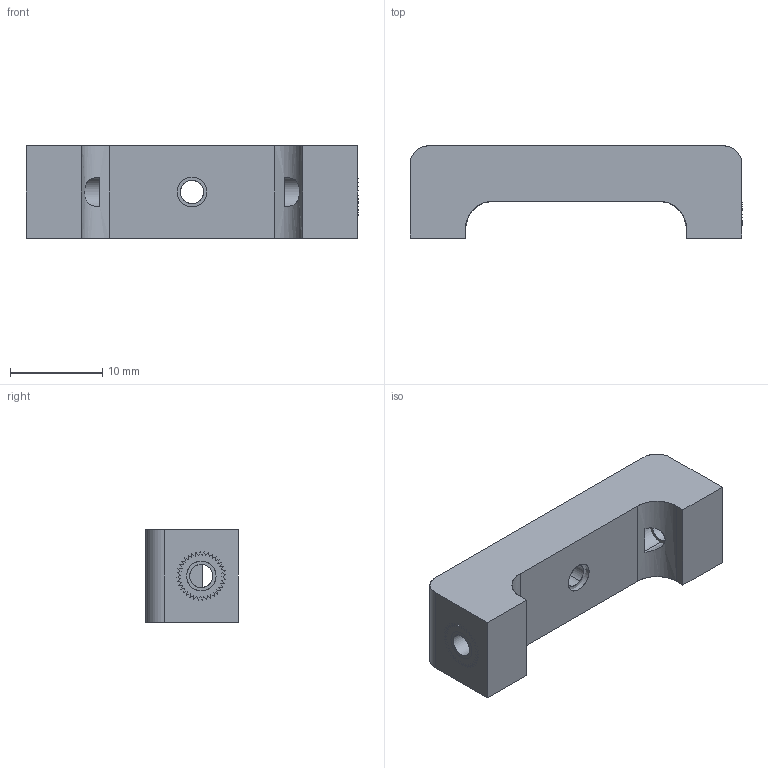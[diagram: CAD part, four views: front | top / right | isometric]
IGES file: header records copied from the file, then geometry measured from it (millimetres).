
Start section: SolidWorks IGES file using analytic representation for surfaces
Global section: file name: C:\Users\tahsi\Desktop\SMD\3D tasarýmlar\Building Set\Parts\1-U Joint\U Joint.IGS; native system: SolidWorks 2023; preprocessor: SolidWorks 2023; author: tahsi; date: 240626.104406; units: millimetre
Bounding box: 36.02 x 10.01 x 10 mm (x, y, z)
Surface area: 2324.5 mm2 (no closed solid volume)
Topology: 0 solids, 0 shells, 904 faces, 4926 edges, 4926 vertices
Faces by surface type: bspline 666, revolution 238
